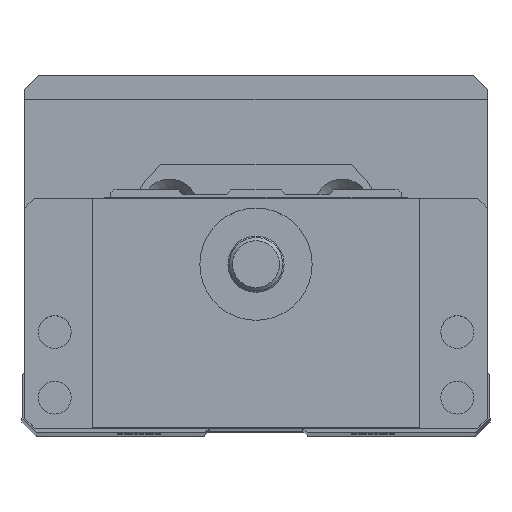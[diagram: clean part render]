
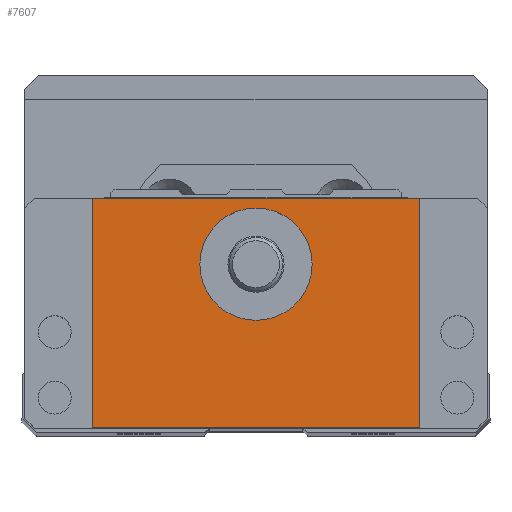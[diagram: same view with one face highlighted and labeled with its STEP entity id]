
A CAD part, top view. The second image highlights one B-rep face of the part: STEP entity #7607.
In plain terms, the highlighted planar face has unit normal (0, 0, 1).
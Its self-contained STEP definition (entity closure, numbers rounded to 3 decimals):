
#5366=LINE('',#28490,#6225);
#5368=LINE('',#28496,#6227);
#5369=LINE('',#28499,#6228);
#5370=LINE('',#28500,#6229);
#6225=VECTOR('',#17452,1.);
#6227=VECTOR('',#17458,1.);
#6228=VECTOR('',#17459,1.);
#6229=VECTOR('',#17460,1.);
#7069=PLANE('',#15544);
#7607=ADVANCED_FACE('',(#8201,#8202),#7069,.T.);
#8201=FACE_BOUND('',#8810,.T.);
#8202=FACE_BOUND('',#8811,.T.);
#8810=EDGE_LOOP('',(#10679));
#8811=EDGE_LOOP('',(#10680,#10681,#10682,#10683));
#10679=ORIENTED_EDGE('',*,*,#13859,.T.);
#10680=ORIENTED_EDGE('',*,*,#13860,.T.);
#10681=ORIENTED_EDGE('',*,*,#13861,.T.);
#10682=ORIENTED_EDGE('',*,*,#13857,.T.);
#10683=ORIENTED_EDGE('',*,*,#13862,.T.);
#12627=VERTEX_POINT('',#28489);
#12628=VERTEX_POINT('',#28491);
#12629=VERTEX_POINT('',#28495);
#12630=VERTEX_POINT('',#28497);
#12631=VERTEX_POINT('',#28498);
#13857=EDGE_CURVE('',#12628,#12627,#5366,.T.);
#13859=EDGE_CURVE('',#12629,#12629,#14827,.T.);
#13860=EDGE_CURVE('',#12630,#12631,#5368,.T.);
#13861=EDGE_CURVE('',#12631,#12628,#5369,.T.);
#13862=EDGE_CURVE('',#12627,#12630,#5370,.T.);
#14827=CIRCLE('',#15543,6.);
#15543=AXIS2_PLACEMENT_3D('',#28494,#17456,#17457);
#15544=AXIS2_PLACEMENT_3D('',#28501,#17461,#17462);
#17452=DIRECTION('',(-1.,0.,0.));
#17456=DIRECTION('',(0.,0.,-1.));
#17457=DIRECTION('',(1.,0.,0.));
#17458=DIRECTION('',(1.,0.,0.));
#17459=DIRECTION('',(0.,1.,0.));
#17460=DIRECTION('',(0.,-1.,0.));
#17461=DIRECTION('',(0.,0.,1.));
#17462=DIRECTION('',(1.,0.,0.));
#28489=CARTESIAN_POINT('',(182.5,-15.5,51.5));
#28490=CARTESIAN_POINT('',(224.7,-15.5,51.5));
#28491=CARTESIAN_POINT('',(217.5,-15.5,51.5));
#28494=CARTESIAN_POINT('',(200.,-22.5,51.5));
#28495=CARTESIAN_POINT('',(206.,-22.5,51.5));
#28496=CARTESIAN_POINT('',(175.3,-40.,51.5));
#28497=CARTESIAN_POINT('',(182.5,-40.,51.5));
#28498=CARTESIAN_POINT('',(217.5,-40.,51.5));
#28499=CARTESIAN_POINT('',(217.5,-40.,51.5));
#28500=CARTESIAN_POINT('',(182.5,-40.,51.5));
#28501=CARTESIAN_POINT('',(224.7,-40.,51.5));
